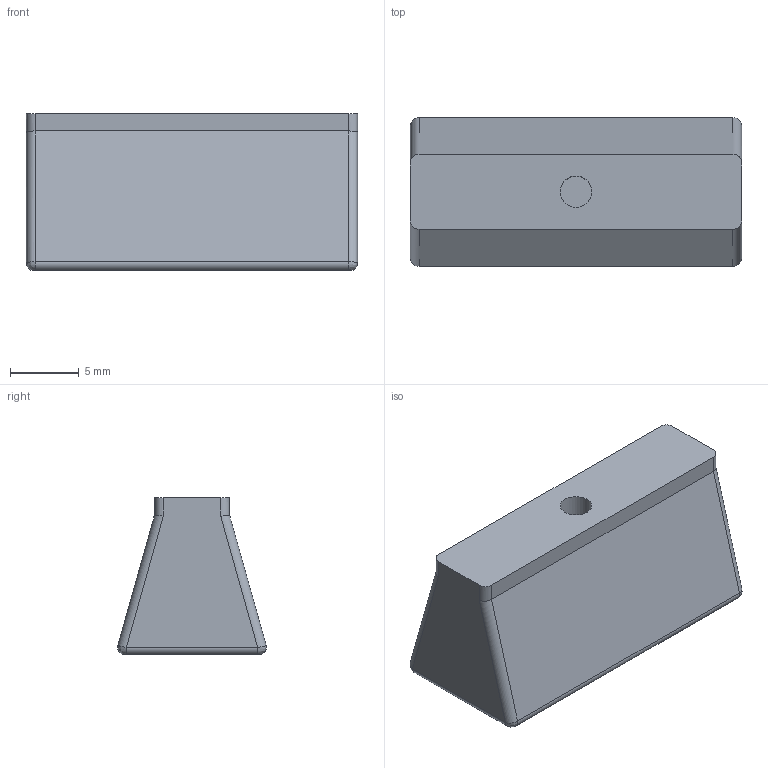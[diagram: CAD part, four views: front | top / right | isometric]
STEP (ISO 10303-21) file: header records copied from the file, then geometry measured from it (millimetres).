
FILE_DESCRIPTION(/* description */ (''),/* implementation_level */ '2;1');
FILE_NAME(/* name */ 'E:\eight way toy\slider.stp',/* time_stamp */ '2014-05-22T07:51:26-04:00',/* author */ ('PLTW'),/* organization */ (''),/* preprocessor_version */ 'ST-DEVELOPER v15.2',/* originating_system */ 'Autodesk Inventor 2014',/* authorisation */ '');
FILE_SCHEMA (('AUTOMOTIVE_DESIGN { 1 0 10303 214 3 1 1 }'));
Length unit declared in the file: inch
Products named in the file (1): slider
Bounding box: 24.13 x 10.85 x 11.43 mm (x, y, z)
Volume: 2162.6 mm3; surface area: 1176.4 mm2
Topology: 1 solids, 1 shells, 26 faces, 57 edges, 34 vertices
Faces by surface type: cylinder 13, plane 9, bspline 4
Full cylindrical faces by diameter (mm): 2.286 x1
Entity records: 860 total; most frequent: CARTESIAN_POINT 251, DIRECTION 128, ORIENTED_EDGE 112, EDGE_CURVE 56, AXIS2_PLACEMENT_3D 49, VERTEX_POINT 34, LINE 30, VECTOR 30
